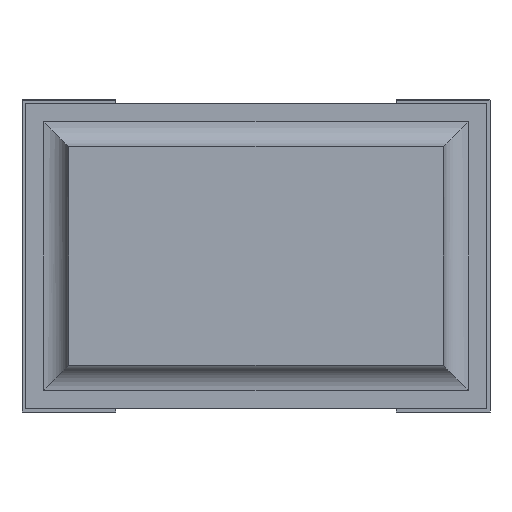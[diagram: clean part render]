
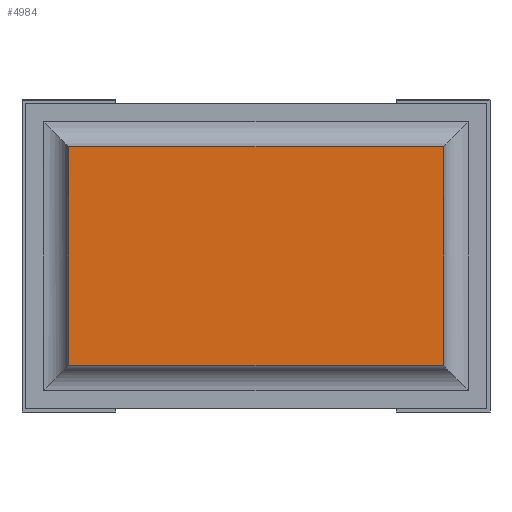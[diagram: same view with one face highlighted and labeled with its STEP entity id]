
A CAD part, front view. The second image highlights one B-rep face of the part: STEP entity #4984.
In plain terms, the highlighted planar face has unit normal (0, -1, 0).
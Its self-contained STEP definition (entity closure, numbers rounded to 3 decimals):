
#65=PLANE('',#5332);
#312=FACE_OUTER_BOUND('',#622,.T.);
#622=EDGE_LOOP('',(#3497,#3498,#3499,#3500));
#949=LINE('',#7118,#1601);
#952=LINE('',#7124,#1604);
#953=LINE('',#7127,#1605);
#954=LINE('',#7128,#1606);
#1601=VECTOR('',#5715,10.);
#1604=VECTOR('',#5720,10.);
#1605=VECTOR('',#5723,10.);
#1606=VECTOR('',#5724,10.);
#2317=VERTEX_POINT('',#7114);
#2318=VERTEX_POINT('',#7116);
#2320=VERTEX_POINT('',#7122);
#2321=VERTEX_POINT('',#7126);
#2775=EDGE_CURVE('',#2317,#2318,#949,.T.);
#2778=EDGE_CURVE('',#2320,#2318,#952,.T.);
#2779=EDGE_CURVE('',#2321,#2320,#953,.T.);
#2780=EDGE_CURVE('',#2317,#2321,#954,.T.);
#3497=ORIENTED_EDGE('',*,*,#2778,.F.);
#3498=ORIENTED_EDGE('',*,*,#2779,.F.);
#3499=ORIENTED_EDGE('',*,*,#2780,.F.);
#3500=ORIENTED_EDGE('',*,*,#2775,.T.);
#4984=ADVANCED_FACE('',(#312),#65,.T.);
#5332=AXIS2_PLACEMENT_3D('',#7125,#5721,#5722);
#5715=DIRECTION('',(0.,0.,-1.));
#5720=DIRECTION('',(-1.,0.,0.));
#5721=DIRECTION('center_axis',(0.,-1.,0.));
#5722=DIRECTION('ref_axis',(0.,0.,-1.));
#5723=DIRECTION('',(0.,0.,-1.));
#5724=DIRECTION('',(1.,0.,0.));
#7114=CARTESIAN_POINT('',(0.075,0.,0.425));
#7116=CARTESIAN_POINT('',(0.075,0.,0.075));
#7118=CARTESIAN_POINT('',(0.075,0.,0.425));
#7122=CARTESIAN_POINT('',(0.675,0.,0.075));
#7124=CARTESIAN_POINT('',(0.675,0.,0.075));
#7125=CARTESIAN_POINT('Origin',(0.676,0.,0.25));
#7126=CARTESIAN_POINT('',(0.675,0.,0.425));
#7127=CARTESIAN_POINT('',(0.675,0.,0.425));
#7128=CARTESIAN_POINT('',(0.075,0.,0.425));
